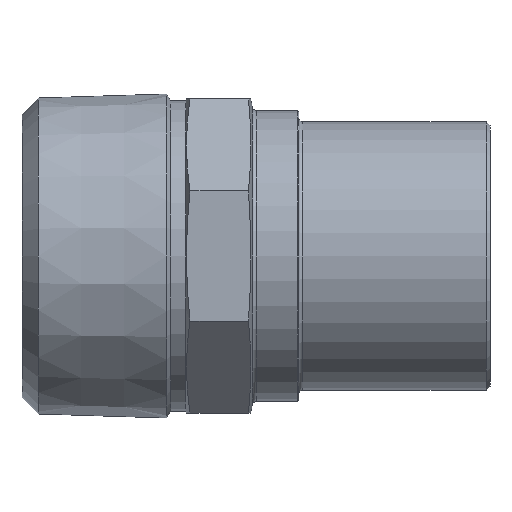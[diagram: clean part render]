
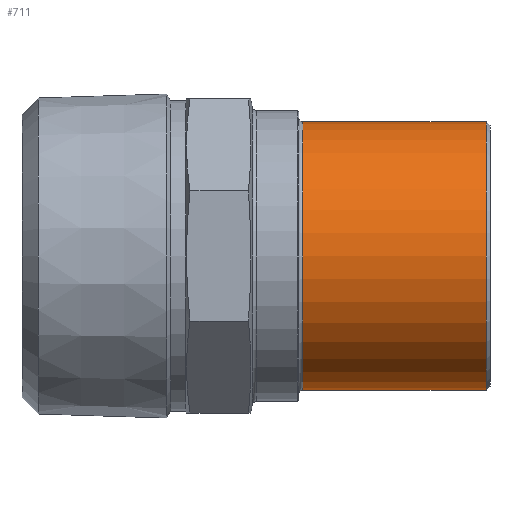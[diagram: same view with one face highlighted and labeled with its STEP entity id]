
A CAD part, left-side view. The second image highlights one B-rep face of the part: STEP entity #711.
In plain terms, the highlighted cylindrical face has radius 17.5 mm (diameter 35 mm), a partial arc.
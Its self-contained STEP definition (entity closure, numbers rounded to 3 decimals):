
#18 = VERTEX_POINT ( 'NONE', #1102 ) ;
#70 = VERTEX_POINT ( 'NONE', #463 ) ;
#76 = DIRECTION ( 'NONE',  ( 0., -1., 0. ) ) ;
#87 = VECTOR ( 'NONE', #1037, 1000. ) ;
#104 = AXIS2_PLACEMENT_3D ( 'NONE', #761, #76, #1034 ) ;
#128 = ORIENTED_EDGE ( 'NONE', *, *, #1287, .T. ) ;
#139 = DIRECTION ( 'NONE',  ( 0., 0., -1. ) ) ;
#158 = DIRECTION ( 'NONE',  ( 0., -1., 0. ) ) ;
#194 = EDGE_CURVE ( 'NONE', #801, #70, #922, .T. ) ;
#387 = LINE ( 'NONE', #1155, #919 ) ;
#422 = CYLINDRICAL_SURFACE ( 'NONE', #557, 17.5 ) ;
#463 = CARTESIAN_POINT ( 'NONE',  ( 0., 0.5, -17.5 ) ) ;
#493 = FACE_OUTER_BOUND ( 'NONE', #819, .T. ) ;
#544 = CARTESIAN_POINT ( 'NONE',  ( 0., 0.5, 17.5 ) ) ;
#557 = AXIS2_PLACEMENT_3D ( 'NONE', #1218, #1243, #1223 ) ;
#609 = CIRCLE ( 'NONE', #1168, 17.5 ) ;
#621 = CARTESIAN_POINT ( 'NONE',  ( 0., 24.464, -17.5 ) ) ;
#678 = LINE ( 'NONE', #1065, #87 ) ;
#711 = ADVANCED_FACE ( 'NONE', ( #493 ), #422, .T. ) ;
#761 = CARTESIAN_POINT ( 'NONE',  ( 0., 0.5, 0. ) ) ;
#801 = VERTEX_POINT ( 'NONE', #544 ) ;
#819 = EDGE_LOOP ( 'NONE', ( #1332, #978, #128, #962 ) ) ;
#846 = EDGE_CURVE ( 'NONE', #18, #1195, #609, .T. ) ;
#919 = VECTOR ( 'NONE', #1075, 1000. ) ;
#922 = CIRCLE ( 'NONE', #104, 17.5 ) ;
#962 = ORIENTED_EDGE ( 'NONE', *, *, #194, .F. ) ;
#978 = ORIENTED_EDGE ( 'NONE', *, *, #846, .T. ) ;
#1000 = CARTESIAN_POINT ( 'NONE',  ( 0., 24.464, 0. ) ) ;
#1034 = DIRECTION ( 'NONE',  ( 0., 0., -1. ) ) ;
#1037 = DIRECTION ( 'NONE',  ( 0., -1., 0. ) ) ;
#1065 = CARTESIAN_POINT ( 'NONE',  ( 0., -17.811, 17.5 ) ) ;
#1075 = DIRECTION ( 'NONE',  ( 0., -1., 0. ) ) ;
#1102 = CARTESIAN_POINT ( 'NONE',  ( 0., 24.464, 17.5 ) ) ;
#1155 = CARTESIAN_POINT ( 'NONE',  ( 0., -17.811, -17.5 ) ) ;
#1168 = AXIS2_PLACEMENT_3D ( 'NONE', #1000, #158, #139 ) ;
#1195 = VERTEX_POINT ( 'NONE', #621 ) ;
#1218 = CARTESIAN_POINT ( 'NONE',  ( 0., -17.811, 0. ) ) ;
#1223 = DIRECTION ( 'NONE',  ( 0., 0., -1. ) ) ;
#1243 = DIRECTION ( 'NONE',  ( 0., -1., 0. ) ) ;
#1279 = EDGE_CURVE ( 'NONE', #18, #801, #678, .T. ) ;
#1287 = EDGE_CURVE ( 'NONE', #1195, #70, #387, .T. ) ;
#1332 = ORIENTED_EDGE ( 'NONE', *, *, #1279, .F. ) ;
